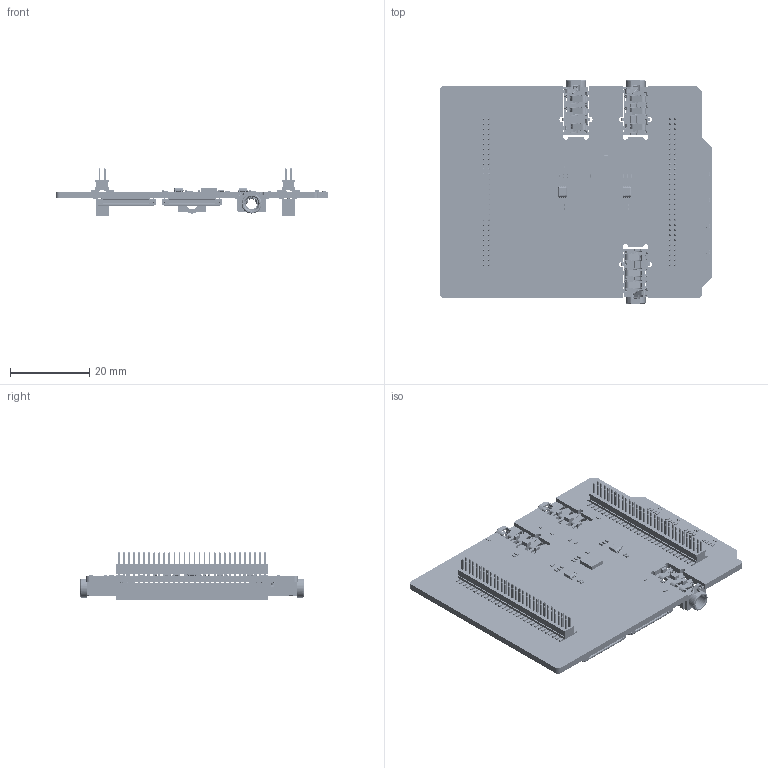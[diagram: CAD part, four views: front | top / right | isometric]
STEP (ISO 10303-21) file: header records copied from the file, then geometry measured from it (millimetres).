
FILE_DESCRIPTION(('Open CASCADE Model'),'2;1');
FILE_NAME('Open CASCADE Shape Model','2026-03-23T18:36:15',('Author'),( 'Open CASCADE'),'Open CASCADE STEP processor 7.5','Open CASCADE 7.5' ,'Unknown');
FILE_SCHEMA(('AUTOMOTIVE_DESIGN { 1 0 10303 214 1 1 1 1 }'));
Length unit declared in the file: millimetre
Products named in the file (95): PCB; Board; Open CASCADE STEP translator 7.5 1.1.1; D8; 798706928; Extruded; R5_4; RES-0402; R5_3; R5_2; R5_1; R4_1; R4_2; R4_3; R4_4; R3_1; R3_2; R3_3; R3_4; R2_1; R2_2; R2_3; R2_4; DL1_1; SMLP34RGB; DL1_2; DL1_3; DL1_4; R1; D2; R14; R9; R8; R7; C1; CAP-0402; U1; 391675664; Open CASCADE STEP translator 6.8 11.1; Body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
Assembly tree (177 placements, depth 5):
  PCB
    Board
      Open CASCADE STEP translator 7.5 1.1.1
    D8
      798706928
        Extruded
    R5_4
      RES-0402
    R5_3
      RES-0402
    R5_2
      RES-0402
    R5_1
      RES-0402
    R4_1
      RES-0402
    R4_2
      RES-0402
    R4_3
      RES-0402
    R4_4
      RES-0402
    R3_1
      RES-0402
    R3_2
      RES-0402
    R3_3
      RES-0402
    R3_4
      RES-0402
    R2_1
      RES-0402
    R2_2
      RES-0402
    R2_3
      RES-0402
    R2_4
      RES-0402
    DL1_1
      SMLP34RGB
    DL1_2
      SMLP34RGB
    DL1_3
      SMLP34RGB
    DL1_4
      SMLP34RGB
    R1
      RES-0402
    D2
      798706928
        Extruded
    R14
      RES-0402
    R9
      RES-0402
    R8
      RES-0402
    R7
      RES-0402
    C1
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Bounding box: 68.58 x 56.5 x 12.15 mm (x, y, z)
Volume: 8508.3 mm3; surface area: 18972.5 mm2
Topology: 128 solids, 131 shells, 13417 faces, 37027 edges, 23725 vertices
Faces by surface type: plane 10417, cylinder 2411, bspline 313, sphere 204, torus 48, cone 24
Full cylindrical faces by diameter (mm): 0.3 x2, 0.381 x58, 0.508 x58, 0.512 x1, 0.6 x4
Entity records: 160992 total; most frequent: CARTESIAN_POINT 32060, ORIENTED_EDGE 27148, DIRECTION 24685, EDGE_CURVE 13575, LINE 11703, VECTOR 11703, VERTEX_POINT 8780, AXIS2_PLACEMENT_3D 6491
